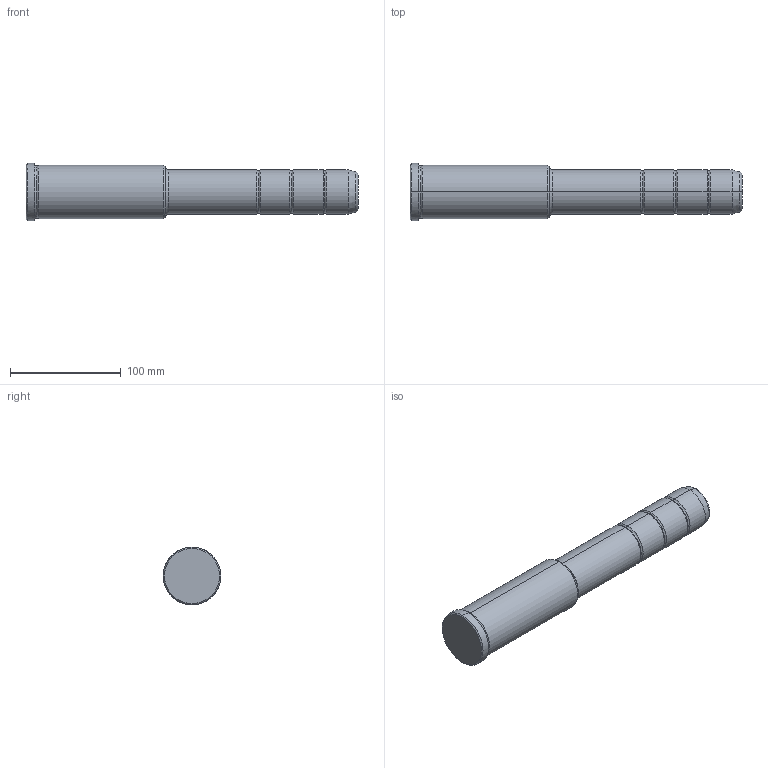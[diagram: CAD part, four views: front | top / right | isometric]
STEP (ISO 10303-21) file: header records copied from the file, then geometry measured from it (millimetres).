
FILE_DESCRIPTION(('CATIA V5 STEP Exchange'),'2;1');
FILE_NAME('C:\Users\Utente\Desktop\IO LAVORO\3D X SITO CF\X SITO\PLASTICA\351\351-40X126X300.stp','2021-11-03T19:11:05+00:00',('none'),('none'),'CATIA Version 5 Release 20 GA (IN-10)','CATIA V5 STEP AP203','none');
FILE_SCHEMA(('CONFIG_CONTROL_DESIGN'));
Length unit declared in the file: millimetre
Products named in the file (1): 351-40X126X300
Bounding box: 300 x 52 x 52 mm (x, y, z)
Volume: 446721.7 mm3; surface area: 44749.4 mm2
Topology: 1 solids, 1 shells, 42 faces, 118 edges, 80 vertices
Faces by surface type: torus 20, cylinder 12, cone 6, plane 4
Entity records: 1472 total; most frequent: CARTESIAN_POINT 353, ORIENTED_EDGE 236, DIRECTION 194, AXIS2_PLACEMENT_3D 135, EDGE_CURVE 118, CIRCLE 92, VERTEX_POINT 80, EDGE_LOOP 44
